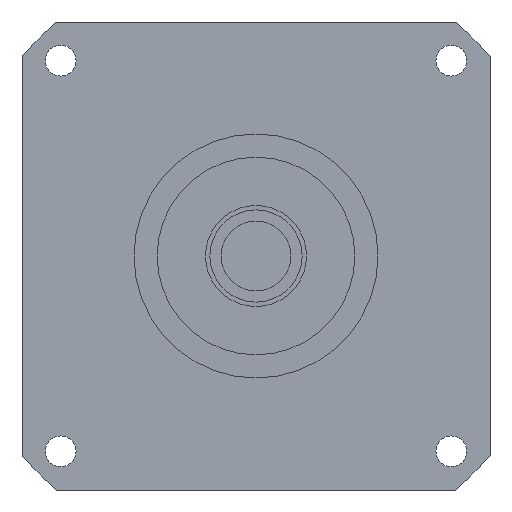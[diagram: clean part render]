
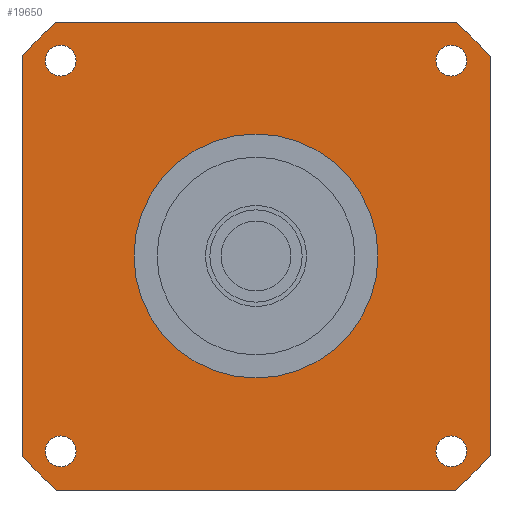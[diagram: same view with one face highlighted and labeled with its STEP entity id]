
A CAD part, left-side view. The second image highlights one B-rep face of the part: STEP entity #19650.
In plain terms, the highlighted planar face has unit normal (-1, 0, 0) as drawn and (0, 0, -1) by its records, which use the part's own axes.
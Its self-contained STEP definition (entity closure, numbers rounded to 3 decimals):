
#14150=CARTESIAN_POINT('',(53.25,45.436,-41.));
#14160=VERTEX_POINT('',#14150);
#14210=CARTESIAN_POINT('',(53.25,53.25,-41.));
#14220=DIRECTION('',(0.,-1.,0.));
#14230=VECTOR('',#14220,1000.);
#14240=LINE('',#14210,#14230);
#14250=CARTESIAN_POINT('',(53.25,-45.436,-41.));
#14260=VERTEX_POINT('',#14250);
#14270=EDGE_CURVE('',#14160,#14260,#14240,.T.);
#18070=CARTESIAN_POINT('',(-40.949,44.449,-41.));
#18080=VERTEX_POINT('',#18070);
#18110=CARTESIAN_POINT('',(-44.449,44.449,-41.));
#18120=DIRECTION('',(0.,0.,-1.));
#18130=DIRECTION('',(-1.,0.,0.));
#18140=AXIS2_PLACEMENT_3D('',#18110,#18120,#18130);
#18150=CIRCLE('',#18140,3.5);
#18160=CARTESIAN_POINT('',(-47.949,44.449,-41.));
#18170=VERTEX_POINT('',#18160);
#18180=EDGE_CURVE('',#18170,#18080,#18150,.T.);
#18300=CARTESIAN_POINT('',(53.25,53.25,-41.));
#18310=DIRECTION('',(0.,0.,-1.));
#18320=DIRECTION('',(1.,0.,0.));
#18330=AXIS2_PLACEMENT_3D('',#18300,#18310,#18320);
#18340=PLANE('',#18330);
#18350=ORIENTED_EDGE('',*,*,#18180,.F.);
#18360=EDGE_CURVE('',#18080,#18170,#18150,.T.);
#18370=ORIENTED_EDGE('',*,*,#18360,.F.);
#18380=EDGE_LOOP('',(#18370,#18350));
#18390=FACE_BOUND('',#18380,.T.);
#18400=CARTESIAN_POINT('',(44.449,44.449,-41.));
#18410=DIRECTION('',(0.,0.,-1.));
#18420=DIRECTION('',(0.,1.,0.));
#18430=AXIS2_PLACEMENT_3D('',#18400,#18410,#18420);
#18440=CIRCLE('',#18430,3.5);
#18450=CARTESIAN_POINT('',(44.449,47.949,-41.));
#18460=VERTEX_POINT('',#18450);
#18470=CARTESIAN_POINT('',(44.449,40.949,-41.));
#18480=VERTEX_POINT('',#18470);
#18490=EDGE_CURVE('',#18460,#18480,#18440,.T.);
#18500=ORIENTED_EDGE('',*,*,#18490,.F.);
#18510=EDGE_CURVE('',#18480,#18460,#18440,.T.);
#18520=ORIENTED_EDGE('',*,*,#18510,.F.);
#18530=EDGE_LOOP('',(#18520,#18500));
#18540=FACE_BOUND('',#18530,.T.);
#18550=CARTESIAN_POINT('',(0.,0.,
-41.));
#18560=DIRECTION('',(0.,0.,1.));
#18570=DIRECTION('',(0.,1.,0.));
#18580=AXIS2_PLACEMENT_3D('',#18550,#18560,#18570);
#18590=CIRCLE('',#18580,27.76);
#18600=CARTESIAN_POINT('',(-27.76,0.,-41.));
#18610=VERTEX_POINT('',#18600);
#18620=CARTESIAN_POINT('',(27.76,0.,-41.));
#18630=VERTEX_POINT('',#18620);
#18640=EDGE_CURVE('',#18610,#18630,#18590,.T.);
#18650=ORIENTED_EDGE('',*,*,#18640,.T.);
#18660=CARTESIAN_POINT('',(0.,27.76,-41.));
#18670=VERTEX_POINT('',#18660);
#18680=EDGE_CURVE('',#18670,#18610,#18590,.T.);
#18690=ORIENTED_EDGE('',*,*,#18680,.T.);
#18700=EDGE_CURVE('',#18630,#18670,#18590,.T.);
#18710=ORIENTED_EDGE('',*,*,#18700,.T.);
#18720=EDGE_LOOP('',(#18710,#18690,#18650));
#18730=FACE_BOUND('',#18720,.T.);
#18740=CARTESIAN_POINT('',(44.449,-44.449,-41.));
#18750=DIRECTION('',(0.,0.,-1.));
#18760=DIRECTION('',(1.,0.,0.));
#18770=AXIS2_PLACEMENT_3D('',#18740,#18750,#18760);
#18780=CIRCLE('',#18770,3.5);
#18790=CARTESIAN_POINT('',(47.949,-44.449,-41.));
#18800=VERTEX_POINT('',#18790);
#18810=CARTESIAN_POINT('',(40.949,-44.449,-41.));
#18820=VERTEX_POINT('',#18810);
#18830=EDGE_CURVE('',#18800,#18820,#18780,.T.);
#18840=ORIENTED_EDGE('',*,*,#18830,.F.);
#18850=EDGE_CURVE('',#18820,#18800,#18780,.T.);
#18860=ORIENTED_EDGE('',*,*,#18850,.F.);
#18870=EDGE_LOOP('',(#18860,#18840));
#18880=FACE_BOUND('',#18870,.T.);
#18890=CARTESIAN_POINT('',(-44.449,-44.449,-41.));
#18900=DIRECTION('',(0.,0.,-1.));
#18910=DIRECTION('',(0.,-1.,0.));
#18920=AXIS2_PLACEMENT_3D('',#18890,#18900,#18910);
#18930=CIRCLE('',#18920,3.5);
#18940=CARTESIAN_POINT('',(-44.449,-47.949,-41.));
#18950=VERTEX_POINT('',#18940);
#18960=CARTESIAN_POINT('',(-44.449,-40.949,-41.));
#18970=VERTEX_POINT('',#18960);
#18980=EDGE_CURVE('',#18950,#18970,#18930,.T.);
#18990=ORIENTED_EDGE('',*,*,#18980,.F.);
#19000=EDGE_CURVE('',#18970,#18950,#18930,.T.);
#19010=ORIENTED_EDGE('',*,*,#19000,.F.);
#19020=EDGE_LOOP('',(#19010,#18990));
#19030=FACE_BOUND('',#19020,.T.);
#19040=CARTESIAN_POINT('',(-53.25,53.25,-41.));
#19050=DIRECTION('',(1.,0.,0.));
#19060=VECTOR('',#19050,1000.);
#19070=LINE('',#19040,#19060);
#19080=CARTESIAN_POINT('',(-45.436,53.25,-41.));
#19090=VERTEX_POINT('',#19080);
#19100=CARTESIAN_POINT('',(45.436,53.25,-41.));
#19110=VERTEX_POINT('',#19100);
#19120=EDGE_CURVE('',#19090,#19110,#19070,.T.);
#19130=ORIENTED_EDGE('',*,*,#19120,.T.);
#19140=CARTESIAN_POINT('',(0.,0.,-41.));
#19150=DIRECTION('',(0.,0.,-1.));
#19160=DIRECTION('',(1.,0.,0.));
#19170=AXIS2_PLACEMENT_3D('',#19140,#19150,#19160);
#19180=CIRCLE('',#19170,70.);
#19190=CARTESIAN_POINT('',(-53.25,45.436,-41.));
#19200=VERTEX_POINT('',#19190);
#19210=EDGE_CURVE('',#19200,#19090,#19180,.T.);
#19220=ORIENTED_EDGE('',*,*,#19210,.T.);
#19230=CARTESIAN_POINT('',(-53.25,-53.25,-41.));
#19240=DIRECTION('',(0.,1.,0.));
#19250=VECTOR('',#19240,1000.);
#19260=LINE('',#19230,#19250);
#19270=CARTESIAN_POINT('',(-53.25,-45.436,-41.));
#19280=VERTEX_POINT('',#19270);
#19290=EDGE_CURVE('',#19280,#19200,#19260,.T.);
#19300=ORIENTED_EDGE('',*,*,#19290,.T.);
#19310=CARTESIAN_POINT('',(0.,0.,-41.));
#19320=DIRECTION('',(0.,0.,-1.));
#19330=DIRECTION('',(1.,0.,0.));
#19340=AXIS2_PLACEMENT_3D('',#19310,#19320,#19330);
#19350=CIRCLE('',#19340,70.);
#19360=CARTESIAN_POINT('',(-45.436,-53.25,-41.));
#19370=VERTEX_POINT('',#19360);
#19380=EDGE_CURVE('',#19370,#19280,#19350,.T.);
#19390=ORIENTED_EDGE('',*,*,#19380,.T.);
#19400=CARTESIAN_POINT('',(53.25,-53.25,-41.));
#19410=DIRECTION('',(-1.,0.,0.));
#19420=VECTOR('',#19410,1000.);
#19430=LINE('',#19400,#19420);
#19440=CARTESIAN_POINT('',(45.436,-53.25,-41.));
#19450=VERTEX_POINT('',#19440);
#19460=EDGE_CURVE('',#19450,#19370,#19430,.T.);
#19470=ORIENTED_EDGE('',*,*,#19460,.T.);
#19480=CARTESIAN_POINT('',(0.,0.,-41.));
#19490=DIRECTION('',(0.,0.,-1.));
#19500=DIRECTION('',(1.,0.,0.));
#19510=AXIS2_PLACEMENT_3D('',#19480,#19490,#19500);
#19520=CIRCLE('',#19510,70.);
#19530=EDGE_CURVE('',#14260,#19450,#19520,.T.);
#19540=ORIENTED_EDGE('',*,*,#19530,.T.);
#19550=ORIENTED_EDGE('',*,*,#14270,.T.);
#19560=CARTESIAN_POINT('',(0.,0.,-41.));
#19570=DIRECTION('',(0.,0.,-1.));
#19580=DIRECTION('',(1.,0.,0.));
#19590=AXIS2_PLACEMENT_3D('',#19560,#19570,#19580);
#19600=CIRCLE('',#19590,70.);
#19610=EDGE_CURVE('',#19110,#14160,#19600,.T.);
#19620=ORIENTED_EDGE('',*,*,#19610,.T.);
#19630=EDGE_LOOP('',(#19620,#19550,#19540,#19470,#19390,#19300,#19220,
#19130));
#19640=FACE_OUTER_BOUND('',#19630,.T.);
#19650=ADVANCED_FACE('',(#18390,#18540,#18730,#18880,#19030,#19640),
#18340,.T.);
